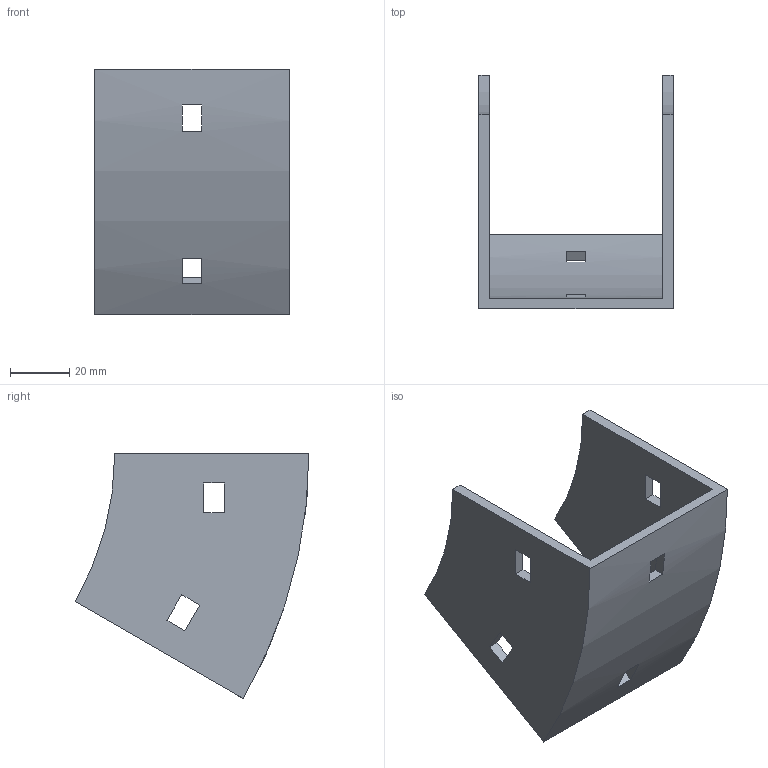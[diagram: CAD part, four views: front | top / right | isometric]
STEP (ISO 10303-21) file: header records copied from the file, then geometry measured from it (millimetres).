
FILE_DESCRIPTION (( 'STEP AP214' ), '1' );
FILE_NAME ('32B1H065.step', '2025-02-21T09:43:49', ( '' ), ( '' ), 'SwSTEP 2.0', 'SolidWorks 2023', '' );
FILE_SCHEMA (( 'AUTOMOTIVE_DESIGN' ));
Length unit declared in the file: millimetre
Products named in the file (1): 32B1H065
Bounding box: 65.5 x 78.9 x 82.75 mm (x, y, z)
Volume: 48032.8 mm3; surface area: 29840.9 mm2
Topology: 1 solids, 1 shells, 34 faces, 96 edges, 64 vertices
Faces by surface type: plane 30, cylinder 4
Entity records: 1143 total; most frequent: CARTESIAN_POINT 195, ORIENTED_EDGE 192, DIRECTION 182, EDGE_CURVE 96, VECTOR 80, LINE 80, VERTEX_POINT 64, AXIS2_PLACEMENT_3D 51
